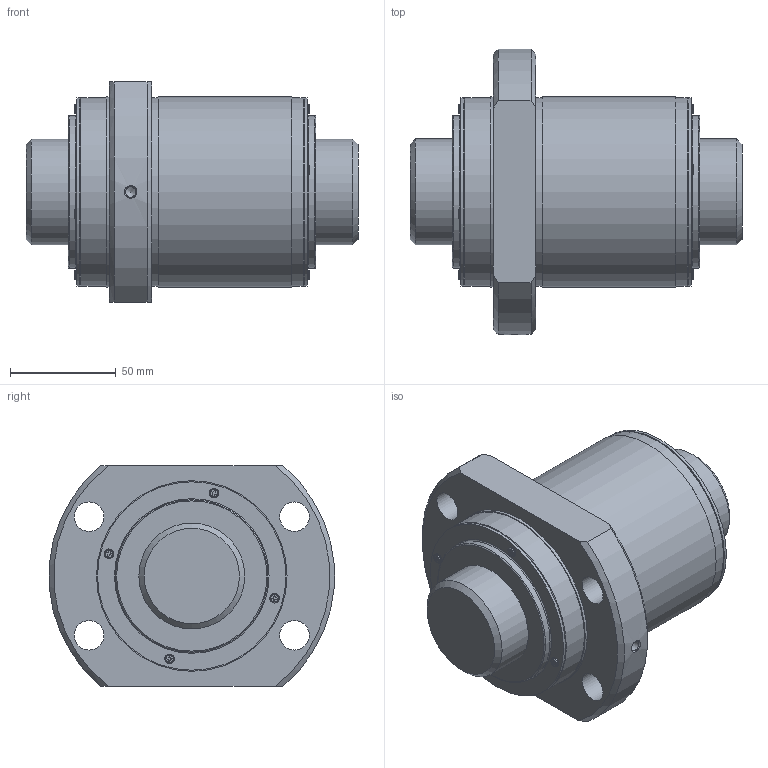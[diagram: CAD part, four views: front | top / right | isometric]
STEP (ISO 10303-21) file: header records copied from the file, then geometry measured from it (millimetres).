
FILE_DESCRIPTION(/* description */ ('STEP AP203'),/* implementation_level */ '2;1');
FILE_NAME(/* name */ 'BLK5050-3.6ZZ+156.8LC7T_000',/* time_stamp */ '2025-06-11T06:31:41+02:00',/* author */ ('License CC BY-ND 4.0'),/* organization */ ('CADENAS'),/* preprocessor_version */ 'ST-DEVELOPER v19.3',/* originating_system */ 'PARTsolutions',/* authorisation */ ' ');
FILE_SCHEMA (('CONFIG_CONTROL_DESIGN'));
Length unit declared in the file: millimetre
Products named in the file (3): BLK5050-3.6ZZ+156.8LC7T_000; BLK5050-3.60ZZ0 Shaft; BLK5050-3.6ZZ Nut
Assembly tree (2 placements, depth 2):
  BLK5050-3.6ZZ+156.8LC7T_000
    BLK5050-3.60ZZ0 Shaft
    BLK5050-3.6ZZ Nut
Bounding box: 156.8 x 134.78 x 104 mm (x, y, z)
Volume: 907778.2 mm3; surface area: 104911.3 mm2
Topology: 2 solids, 2 shells, 207 faces, 517 edges, 339 vertices
Faces by surface type: plane 127, cylinder 58, torus 12, cone 10
Full cylindrical faces by diameter (mm): 4.54 x8, 4.917 x1, 14 x4, 50 x2, 72 x2, 89 x5, 90 x2
Entity records: 6038 total; most frequent: CARTESIAN_POINT 1055, DIRECTION 1020, ORIENTED_EDGE 946, EDGE_CURVE 473, AXIS2_PLACEMENT_3D 346, VERTEX_POINT 338, LINE 328, VECTOR 328
